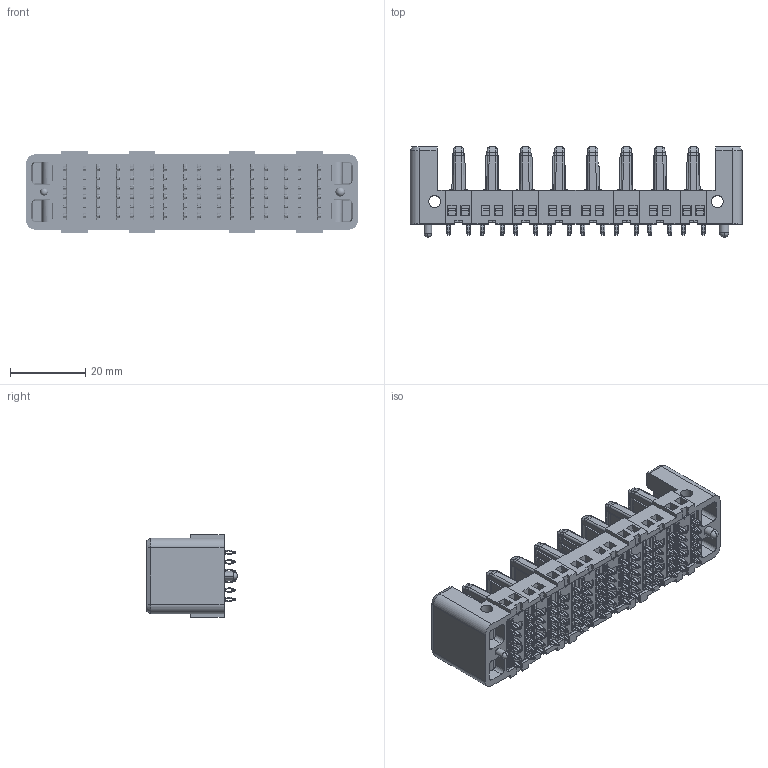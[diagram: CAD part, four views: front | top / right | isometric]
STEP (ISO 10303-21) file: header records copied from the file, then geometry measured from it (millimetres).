
FILE_DESCRIPTION(/* description */ (''),/* implementation_level */ '2;1');
FILE_NAME(/* name */ 'PDC3720F0001-24S石头档.stp',/* time_stamp */ '2024-08-16T10:32:42+08:00',/* author */ (''),/* organization */ (''),/* preprocessor_version */ 'ST-DEVELOPER v16.7',/* originating_system */ 'SIEMENS PLM Software NX 1946',/* authorisation */ '');
FILE_SCHEMA (('AUTOMOTIVE_DESIGN { 1 0 10303 214 3 1 1 1 }'));
Products named in the file (1): _model1
Bounding box: 88.1 x 24 x 22 mm (x, y, z)
Volume: 20739.7 mm3; surface area: 18974.6 mm2
Topology: 1 solids, 1 shells, 4716 faces, 12801 edges, 8007 vertices
Faces by surface type: plane 1614, cylinder 1449, torus 768, bspline 416, extrusion 397, cone 68, sphere 4
Entity records: 199979 total; most frequent: CARTESIAN_POINT 60769, ORIENTED_EDGE 25594, DIRECTION 22524, EDGE_CURVE 12797, VERTEX_POINT 8007, AXIS2_PLACEMENT_3D 7819, VECTOR 6886, LINE 6489
